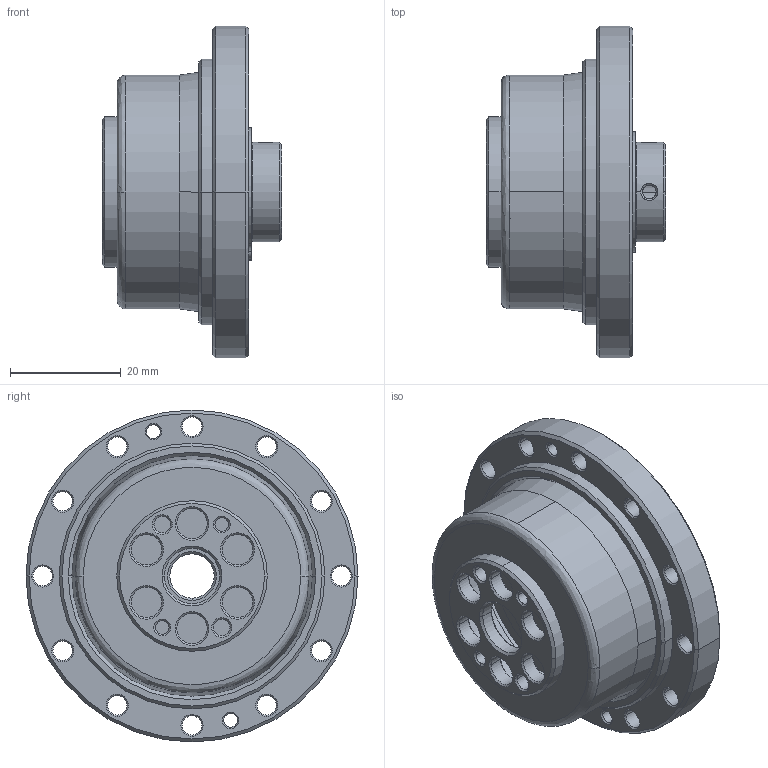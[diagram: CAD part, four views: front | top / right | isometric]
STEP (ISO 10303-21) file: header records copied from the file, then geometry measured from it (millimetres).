
FILE_DESCRIPTION(('STEP AP214'),'1');
FILE_NAME('cctmp_87AC1AE7-9502-4797-A1EA-34C621F52153_2025_03_06_11_14_52_0768_126684..stp','2025-03-06T10:14:52',('HIWIN GmbH'),('CADClick - www.CADClick.com'),'Spatial InterOp 3D',' ','unknown authorization');
FILE_SCHEMA(('AUTOMOTIVE_DESIGN'));
Length unit declared in the file: millimetre
Products named in the file (2): DSC-17-XX-CO_FILE; 2025_03_06_11_14_52_0768
Assembly tree (1 placements, depth 2):
  DSC-17-XX-CO_FILE
    2025_03_06_11_14_52_0768
Bounding box: 32.5 x 60 x 60 mm (x, y, z)
Volume: 27558.3 mm3; surface area: 16220.7 mm2
Topology: 1 solids, 1 shells, 251 faces, 609 edges, 371 vertices
Faces by surface type: cone 126, cylinder 95, plane 20, bspline 10
Entity records: 11390 total; most frequent: CARTESIAN_POINT 3148, DIRECTION 1418, ORIENTED_EDGE 1218, EDGE_CURVE 609, AXIS2_PLACEMENT_3D 593, VERTEX_POINT 371, CIRCLE 350, EDGE_LOOP 320
